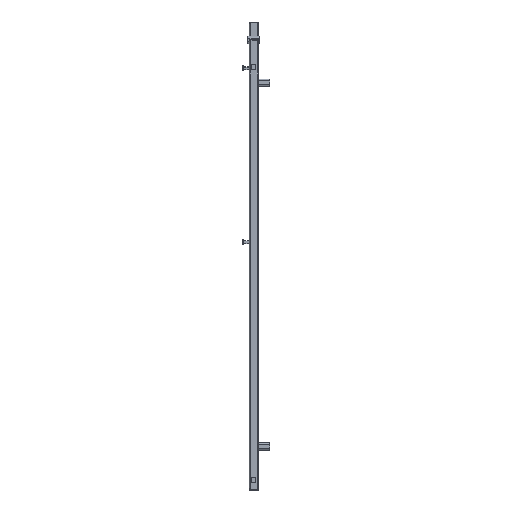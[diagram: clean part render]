
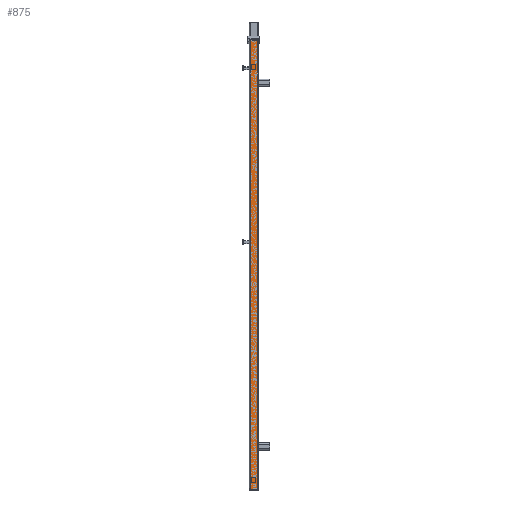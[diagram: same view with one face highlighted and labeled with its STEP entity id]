
A CAD part, left-side view. The second image highlights one B-rep face of the part: STEP entity #875.
In plain terms, the highlighted planar face has unit normal (-1, 0, 0).
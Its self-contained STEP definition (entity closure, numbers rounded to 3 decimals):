
#875 = ADVANCED_FACE( '', ( #1867 ), #1868, .T. );
#1867 = FACE_OUTER_BOUND( '', #3074, .T. );
#1868 = PLANE( '', #3075 );
#3074 = EDGE_LOOP( '', ( #5367, #5368, #5369, #5370 ) );
#3075 = AXIS2_PLACEMENT_3D( '', #5371, #5372, #5373 );
#5367 = ORIENTED_EDGE( '', *, *, #7357, .F. );
#5368 = ORIENTED_EDGE( '', *, *, #7685, .T. );
#5369 = ORIENTED_EDGE( '', *, *, #7512, .T. );
#5370 = ORIENTED_EDGE( '', *, *, #7686, .T. );
#5371 = CARTESIAN_POINT( '', ( -15., 15., -1551. ) );
#5372 = DIRECTION( '', ( -1., 0., 0. ) );
#5373 = DIRECTION( '', ( 0., -1., 0. ) );
#7357 = EDGE_CURVE( '', #8968, #8970, #8971, .T. );
#7512 = EDGE_CURVE( '', #9206, #9204, #9207, .T. );
#7685 = EDGE_CURVE( '', #8968, #9206, #9453, .F. );
#7686 = EDGE_CURVE( '', #9204, #8970, #9454, .T. );
#8968 = VERTEX_POINT( '', #11089 );
#8970 = VERTEX_POINT( '', #11091 );
#8971 = LINE( '', #11092, #11093 );
#9204 = VERTEX_POINT( '', #11403 );
#9206 = VERTEX_POINT( '', #11405 );
#9207 = LINE( '', #11406, #11407 );
#9453 = LINE( '', #11737, #11738 );
#9454 = LINE( '', #11739, #11740 );
#11089 = CARTESIAN_POINT( '', ( -15., 12., 0. ) );
#11091 = CARTESIAN_POINT( '', ( -15., -12., 0. ) );
#11092 = CARTESIAN_POINT( '', ( -15., 15., 0. ) );
#11093 = VECTOR( '', #13036, 1000. );
#11403 = CARTESIAN_POINT( '', ( -15., -12., -1551. ) );
#11405 = CARTESIAN_POINT( '', ( -15., 12., -1551. ) );
#11406 = CARTESIAN_POINT( '', ( -15., 15., -1551. ) );
#11407 = VECTOR( '', #13246, 1000. );
#11737 = CARTESIAN_POINT( '', ( -15., 12., -1551. ) );
#11738 = VECTOR( '', #13448, 1000. );
#11739 = CARTESIAN_POINT( '', ( -15., -12., -1551. ) );
#11740 = VECTOR( '', #13449, 1000. );
#13036 = DIRECTION( '', ( 0., -1., 0. ) );
#13246 = DIRECTION( '', ( 0., -1., 0. ) );
#13448 = DIRECTION( '', ( 0., 0., 1. ) );
#13449 = DIRECTION( '', ( 0., 0., 1. ) );
